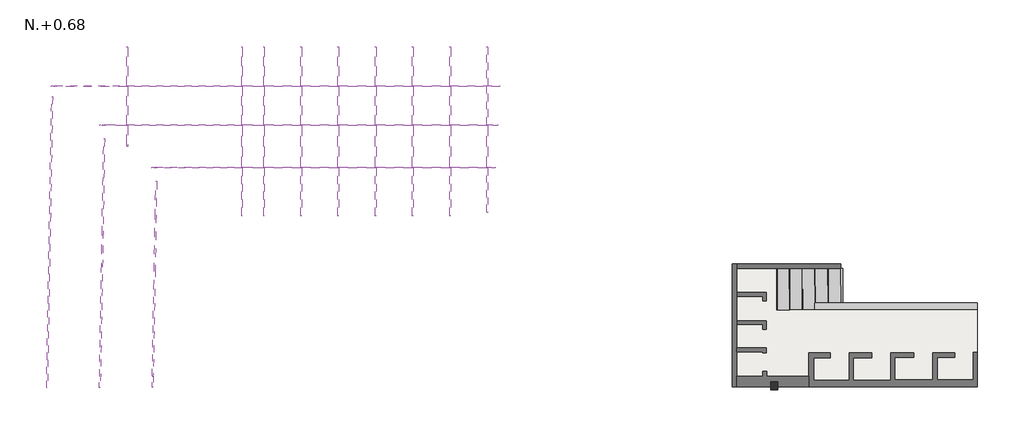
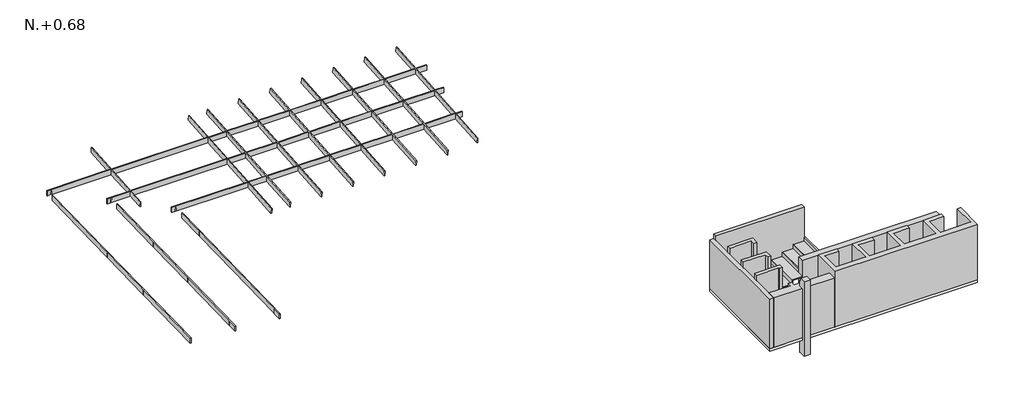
# One storey: 15 beams, 8 proxies, 1 column, 1 slab, 1 stair flight.
"""IFC4 building model written with IfcOpenShell, lengths in millimetres."""

from ifc_helpers import new_model, si_unit, frame, origin, place, context, project, spatial, polyline, outline, extrude, faceted_brep, transform, mapped, element, save
from components import stair_flight_a5c20a10

model = new_model("IFC4")

# Units and contexts
model_context = context("Model", 3, world=origin())
ifc_project = project(units=[si_unit("LENGTHUNIT", "METRE", prefix="MILLI")], contexts=[model_context])

# Site, building, storey
site = spatial("IfcSite", under=ifc_project)
building = spatial("IfcBuilding", under=site)
storey = spatial("IfcBuildingStorey", under=building, Name="N.+0.68", Elevation=-2330.0)

# Beams
placement = place(None, origin())
element("IfcBeam", 1, ObjectType="Concrete-Rectangular Beam : VGT-301(18X03)EN MADERA", at=placement, inside=storey, context=model_context, shape_type="Brep", body=[
    faceted_brep([(16563.4063436, 9794.5052207, 5850.0), (16563.4063436, 9764.5052207, 5850.0), (16563.4063436, 9764.5052207, 5650.0), (16563.4063436, 9794.5052207, 5650.0), (2103.4063436, 9794.5052207, 5850.0), (2103.4063436, 9794.5052207, 5650.0), (2103.4063436, 9764.5052207, 5650.0), (2103.4063436, 9764.5052207, 5850.0), (14976.1216022, 9794.5052207, 5850.0), (14976.1216022, 9764.5052207, 5850.0), (14976.1216022, 9764.5052207, 5654.8803314), (14946.1216022, 9764.5052207, 5654.8803314), (14946.1216022, 9764.5052207, 5850.0), (13775.9620953, 9764.5052207, 5850.0), (13775.9620953, 9764.5052207, 5654.8803314), (13745.9620953, 9764.5052207, 5654.8803314), (13745.9620953, 9764.5052207, 5850.0), (12576.1254691, 9764.5052207, 5850.0), (12576.1254691, 9764.5052207, 5654.8803314), (12546.1254691, 9764.5052207, 5654.8803314), (12546.1254691, 9764.5052207, 5850.0), (11376.0358993, 9764.5052207, 5850.0), (11376.0358993, 9764.5052207, 5654.8803314), (11346.0358993, 9764.5052207, 5654.8803314), (11346.0358993, 9764.5052207, 5850.0), (10176.0728013, 9764.5052207, 5850.0), (10176.0728013, 9764.5052207, 5654.8803314), (10146.0728013, 9764.5052207, 5654.8803314), (10146.0728013, 9764.5052207, 5850.0), (8976.1097033, 9764.5052207, 5850.0), (8976.1097033, 9764.5052207, 5654.8803314), (8946.1097033, 9764.5052207, 5654.8803314), (8946.1097033, 9764.5052207, 5850.0), (8266.1324595, 9764.5052207, 5850.0), (8266.1324595, 9764.5052207, 5654.8803314), (8236.1324595, 9764.5052207, 5654.8803314), (8236.1324595, 9764.5052207, 5850.0), (4567.5436235, 9764.5052207, 5850.0), (4567.5436235, 9764.5052207, 5663.6930278), (4537.5436235, 9764.5052207, 5663.6930278), (4537.5436235, 9764.5052207, 5850.0), (2228.1198364, 9764.5052207, 5650.0), (2239.5813547, 9764.5052207, 5831.9803367), (2287.1007594, 9764.5052207, 5828.987461), (2275.827739, 9764.5052207, 5650.0), (2238.7808243, 9794.5052207, 5650.0), (2250.2002201, 9794.5052207, 5831.3115374), (2202.6808154, 9794.5052207, 5834.3044131), (2191.0729217, 9794.5052207, 5650.0), (4537.5436235, 9794.5052207, 5850.0), (4537.5436235, 9794.5052207, 5665.93183), (4567.5436235, 9794.5052207, 5665.93183), (4567.5436235, 9794.5052207, 5850.0), (8236.1324595, 9794.5052207, 5850.0), (8236.1324595, 9794.5052207, 5657.3229592), (8266.1324595, 9794.5052207, 5657.3229592), (8266.1324595, 9794.5052207, 5850.0), (8946.1097033, 9794.5052207, 5850.0), (8946.1097033, 9794.5052207, 5657.3229592), (8976.1097033, 9794.5052207, 5657.3229592), (8976.1097033, 9794.5052207, 5850.0), (10146.0728013, 9794.5052207, 5850.0), (10146.0728013, 9794.5052207, 5657.3229592), (10176.0728013, 9794.5052207, 5657.3229592), (10176.0728013, 9794.5052207, 5850.0), (11346.0358993, 9794.5052207, 5850.0), (11346.0358993, 9794.5052207, 5657.3229592), (11376.0358993, 9794.5052207, 5657.3229592), (11376.0358993, 9794.5052207, 5850.0), (12546.1254691, 9794.5052207, 5850.0), (12546.1254691, 9794.5052207, 5657.3229592), (12576.1254691, 9794.5052207, 5657.3229592), (12576.1254691, 9794.5052207, 5850.0), (13745.9620953, 9794.5052207, 5850.0), (13745.9620953, 9794.5052207, 5657.3229592), (13775.9620953, 9794.5052207, 5657.3229592), (13775.9620953, 9794.5052207, 5850.0), (14946.1216022, 9794.5052207, 5850.0), (14946.1216022, 9794.5052207, 5657.3229592), (14976.1216022, 9794.5052207, 5657.3229592)], [[[0, 1, 2, 3]], [[4, 5, 6, 7]], [[1, 0, 8, 9]], [[2, 1, 9, 10, 11, 12, 13, 14, 15, 16, 17, 18, 19, 20, 21, 22, 23, 24, 25, 26, 27, 28, 29, 30, 31, 32, 33, 34, 35, 36, 37, 38, 39, 40, 7, 6, 41, 42, 43, 44]], [[3, 2, 44, 45]], [[0, 3, 45, 46, 47, 48, 5, 4, 49, 50, 51, 52, 53, 54, 55, 56, 57, 58, 59, 60, 61, 62, 63, 64, 65, 66, 67, 68, 69, 70, 71, 72, 73, 74, 75, 76, 77, 78, 79, 8]], [[35, 54, 53, 36]], [[54, 35, 34, 55]], [[55, 34, 33, 56]], [[31, 58, 57, 32]], [[58, 31, 30, 59]], [[59, 30, 29, 60]], [[27, 62, 61, 28]], [[62, 27, 26, 63]], [[63, 26, 25, 64]], [[23, 66, 65, 24]], [[66, 23, 22, 67]], [[67, 22, 21, 68]], [[19, 70, 69, 20]], [[70, 19, 18, 71]], [[71, 18, 17, 72]], [[15, 74, 73, 16]], [[74, 15, 14, 75]], [[75, 14, 13, 76]], [[11, 78, 77, 12]], [[78, 11, 10, 79]], [[79, 10, 9, 8]], [[50, 49, 40, 39]], [[51, 50, 39, 38]], [[52, 51, 38, 37]], [[36, 53, 52, 37]], [[56, 33, 32, 57]], [[60, 29, 28, 61]], [[64, 25, 24, 65]], [[68, 21, 20, 69]], [[72, 17, 16, 73]], [[76, 13, 12, 77]], [[4, 7, 40, 49]], [[42, 47, 46, 43]], [[43, 46, 45, 44]], [[47, 42, 41, 48]], [[6, 5, 48, 41]]]),
])
element("IfcBeam", 2, ObjectType="Concrete-Rectangular Beam : VGT-302(18X03)EN MADERA", at=placement, inside=storey, context=model_context, shape_type="Brep", body=[
    faceted_brep([(16489.0950259, 8534.266915, 5745.0), (16489.0950259, 8504.266915, 5745.0), (16489.0950259, 8504.266915, 5545.0), (16489.0950259, 8534.266915, 5545.0), (3668.7952342, 8534.266915, 5745.0), (3668.7952342, 8534.266915, 5545.0), (3668.7952342, 8504.266915, 5545.0), (3668.7952342, 8504.266915, 5745.0), (16174.4570687, 8534.266915, 5745.0), (16174.4570687, 8504.266915, 5745.0), (16174.4570687, 8504.266915, 5552.2705575), (16144.4570687, 8504.266915, 5552.2705575), (16144.4570687, 8504.266915, 5745.0), (14976.1216022, 8504.266915, 5745.0), (14976.1216022, 8504.266915, 5552.2705575), (14946.1216022, 8504.266915, 5552.2705575), (14946.1216022, 8504.266915, 5745.0), (13775.9620953, 8504.266915, 5745.0), (13775.9620953, 8504.266915, 5552.2705575), (13745.9620953, 8504.266915, 5552.2705575), (13745.9620953, 8504.266915, 5745.0), (12576.1254691, 8504.266915, 5745.0), (12576.1254691, 8504.266915, 5552.2705575), (12546.1254691, 8504.266915, 5552.2705575), (12546.1254691, 8504.266915, 5745.0), (11376.0358993, 8504.266915, 5745.0), (11376.0358993, 8504.266915, 5552.2705575), (11346.0358993, 8504.266915, 5552.2705575), (11346.0358993, 8504.266915, 5745.0), (10176.0728013, 8504.266915, 5745.0), (10176.0728013, 8504.266915, 5552.2705575), (10146.0728013, 8504.266915, 5552.2705575), (10146.0728013, 8504.266915, 5745.0), (8976.1097033, 8504.266915, 5745.0), (8976.1097033, 8504.266915, 5552.2705575), (8946.1097033, 8504.266915, 5552.2705575), (8946.1097033, 8504.266915, 5745.0), (8266.1324595, 8504.266915, 5745.0), (8266.1324595, 8504.266915, 5552.2705575), (8236.1324595, 8504.266915, 5552.2705575), (8236.1324595, 8504.266915, 5745.0), (4567.5436235, 8504.266915, 5745.0), (4567.5436235, 8504.266915, 5569.6455536), (4537.5436235, 8504.266915, 5569.6455536), (4537.5436235, 8504.266915, 5745.0), (3777.7714078, 8504.266915, 5545.0), (3789.6971255, 8504.266915, 5734.3506669), (3837.2165303, 8504.266915, 5731.3577912), (3825.4793104, 8504.266915, 5545.0), (3788.4323957, 8534.266915, 5545.0), (3800.315991, 8534.266915, 5733.6818676), (3752.7965862, 8534.266915, 5736.6747433), (3740.7244931, 8534.266915, 5545.0), (4537.5436235, 8534.266915, 5745.0), (4537.5436235, 8534.266915, 5571.8843557), (4567.5436235, 8534.266915, 5571.8843557), (4567.5436235, 8534.266915, 5745.0), (8236.1324595, 8534.266915, 5745.0), (8236.1324595, 8534.266915, 5554.7131854), (8266.1324595, 8534.266915, 5554.7131854), (8266.1324595, 8534.266915, 5745.0), (8946.1097033, 8534.266915, 5745.0), (8946.1097033, 8534.266915, 5554.7131854), (8976.1097033, 8534.266915, 5554.7131854), (8976.1097033, 8534.266915, 5745.0), (10146.0728013, 8534.266915, 5745.0), (10146.0728013, 8534.266915, 5554.7131854), (10176.0728013, 8534.266915, 5554.7131854), (10176.0728013, 8534.266915, 5745.0), (11346.0358993, 8534.266915, 5745.0), (11346.0358993, 8534.266915, 5554.7131854), (11376.0358993, 8534.266915, 5554.7131854), (11376.0358993, 8534.266915, 5745.0), (12546.1254691, 8534.266915, 5745.0), (12546.1254691, 8534.266915, 5554.7131854), (12576.1254691, 8534.266915, 5554.7131854), (12576.1254691, 8534.266915, 5745.0), (13745.9620953, 8534.266915, 5745.0), (13745.9620953, 8534.266915, 5554.7131854), (13775.9620953, 8534.266915, 5554.7131854), (13775.9620953, 8534.266915, 5745.0), (14946.1216022, 8534.266915, 5745.0), (14946.1216022, 8534.266915, 5554.7131854), (14976.1216022, 8534.266915, 5554.7131854), (14976.1216022, 8534.266915, 5745.0), (16144.4570687, 8534.266915, 5745.0), (16144.4570687, 8534.266915, 5554.7131854), (16174.4570687, 8534.266915, 5554.7131854)], [[[0, 1, 2, 3]], [[4, 5, 6, 7]], [[1, 0, 8, 9]], [[2, 1, 9, 10, 11, 12, 13, 14, 15, 16, 17, 18, 19, 20, 21, 22, 23, 24, 25, 26, 27, 28, 29, 30, 31, 32, 33, 34, 35, 36, 37, 38, 39, 40, 41, 42, 43, 44, 7, 6, 45, 46, 47, 48]], [[3, 2, 48, 49]], [[0, 3, 49, 50, 51, 52, 5, 4, 53, 54, 55, 56, 57, 58, 59, 60, 61, 62, 63, 64, 65, 66, 67, 68, 69, 70, 71, 72, 73, 74, 75, 76, 77, 78, 79, 80, 81, 82, 83, 84, 85, 86, 87, 8]], [[44, 43, 54, 53]], [[54, 43, 42, 55]], [[42, 41, 56, 55]], [[40, 39, 58, 57]], [[58, 39, 38, 59]], [[38, 37, 60, 59]], [[36, 35, 62, 61]], [[62, 35, 34, 63]], [[34, 33, 64, 63]], [[32, 31, 66, 65]], [[66, 31, 30, 67]], [[30, 29, 68, 67]], [[28, 27, 70, 69]], [[70, 27, 26, 71]], [[26, 25, 72, 71]], [[24, 23, 74, 73]], [[74, 23, 22, 75]], [[22, 21, 76, 75]], [[20, 19, 78, 77]], [[78, 19, 18, 79]], [[18, 17, 80, 79]], [[16, 15, 82, 81]], [[82, 15, 14, 83]], [[14, 13, 84, 83]], [[12, 11, 86, 85]], [[86, 11, 10, 87]], [[10, 9, 8, 87]], [[4, 7, 44, 53]], [[56, 41, 40, 57]], [[60, 37, 36, 61]], [[64, 33, 32, 65]], [[68, 29, 28, 69]], [[72, 25, 24, 73]], [[76, 21, 20, 77]], [[80, 17, 16, 81]], [[84, 13, 12, 85]], [[46, 51, 50, 47]], [[47, 50, 49, 48]], [[51, 46, 45, 52]], [[6, 5, 52, 45]]]),
])
element("IfcBeam", 3, ObjectType="Concrete-Rectangular Beam : VGT-303(18X03)EN MADERA", at=placement, inside=storey, context=model_context, shape_type="Brep", body=[
    faceted_brep([(16408.6269757, 7169.6171913, 5635.0), (16408.6269757, 7139.6171913, 5635.0), (16408.6269757, 7139.6171913, 5435.0), (16408.6269757, 7169.6171913, 5435.0), (5347.3389262, 7169.6171913, 5635.0), (5347.3389262, 7169.6171913, 5435.0), (5347.3389262, 7139.6171913, 5435.0), (5347.3389262, 7139.6171913, 5635.0), (16174.4570687, 7169.6171913, 5635.0), (16174.4570687, 7139.6171913, 5635.0), (16174.4570687, 7139.6171913, 5441.1595089), (16144.4570687, 7139.6171913, 5441.1595089), (16144.4570687, 7139.6171913, 5635.0), (14976.1216022, 7139.6171913, 5635.0), (14976.1216022, 7139.6171913, 5441.1595089), (14946.1216022, 7139.6171913, 5441.1595089), (14946.1216022, 7139.6171913, 5635.0), (13775.9620953, 7139.6171913, 5635.0), (13775.9620953, 7139.6171913, 5441.1595089), (13745.9620953, 7139.6171913, 5441.1595089), (13745.9620953, 7139.6171913, 5635.0), (12576.1254691, 7139.6171913, 5635.0), (12576.1254691, 7139.6171913, 5441.1595089), (12546.1254691, 7139.6171913, 5441.1595089), (12546.1254691, 7139.6171913, 5635.0), (11376.0358993, 7139.6171913, 5635.0), (11376.0358993, 7139.6171913, 5441.1595089), (11346.0358993, 7139.6171913, 5441.1595089), (11346.0358993, 7139.6171913, 5635.0), (10176.0728013, 7139.6171913, 5635.0), (10176.0728013, 7139.6171913, 5441.1595089), (10146.0728013, 7139.6171913, 5441.1595089), (10146.0728013, 7139.6171913, 5635.0), (8976.1097033, 7139.6171913, 5635.0), (8976.1097033, 7139.6171913, 5441.1595089), (8946.1097033, 7139.6171913, 5441.1595089), (8946.1097033, 7139.6171913, 5635.0), (8266.1324595, 7139.6171913, 5635.0), (8266.1324595, 7139.6171913, 5441.1595089), (8236.1324595, 7139.6171913, 5441.1595089), (8236.1324595, 7139.6171913, 5635.0), (5456.0454315, 7139.6171913, 5435.0), (5468.2408175, 7139.6171913, 5628.6323267), (5515.7602222, 7139.6171913, 5625.639451), (5503.7533341, 7139.6171913, 5435.0), (5466.7064194, 7169.6171913, 5435.0), (5478.8596829, 7169.6171913, 5627.9635274), (5431.3402782, 7169.6171913, 5630.9564031), (5418.9985168, 7169.6171913, 5435.0), (8236.1324595, 7169.6171913, 5635.0), (8236.1324595, 7169.6171913, 5443.6021368), (8266.1324595, 7169.6171913, 5443.6021368), (8266.1324595, 7169.6171913, 5635.0), (8946.1097033, 7169.6171913, 5635.0), (8946.1097033, 7169.6171913, 5443.6021368), (8976.1097033, 7169.6171913, 5443.6021368), (8976.1097033, 7169.6171913, 5635.0), (10146.0728013, 7169.6171913, 5635.0), (10146.0728013, 7169.6171913, 5443.6021368), (10176.0728013, 7169.6171913, 5443.6021368), (10176.0728013, 7169.6171913, 5635.0), (11346.0358993, 7169.6171913, 5635.0), (11346.0358993, 7169.6171913, 5443.6021368), (11376.0358993, 7169.6171913, 5443.6021368), (11376.0358993, 7169.6171913, 5635.0), (12546.1254691, 7169.6171913, 5635.0), (12546.1254691, 7169.6171913, 5443.6021368), (12576.1254691, 7169.6171913, 5443.6021368), (12576.1254691, 7169.6171913, 5635.0), (13745.9620953, 7169.6171913, 5635.0), (13745.9620953, 7169.6171913, 5443.6021368), (13775.9620953, 7169.6171913, 5443.6021368), (13775.9620953, 7169.6171913, 5635.0), (14946.1216022, 7169.6171913, 5635.0), (14946.1216022, 7169.6171913, 5443.6021368), (14976.1216022, 7169.6171913, 5443.6021368), (14976.1216022, 7169.6171913, 5635.0), (16144.4570687, 7169.6171913, 5635.0), (16144.4570687, 7169.6171913, 5443.6021368), (16174.4570687, 7169.6171913, 5443.6021368)], [[[0, 1, 2, 3]], [[4, 5, 6, 7]], [[1, 0, 8, 9]], [[2, 1, 9, 10, 11, 12, 13, 14, 15, 16, 17, 18, 19, 20, 21, 22, 23, 24, 25, 26, 27, 28, 29, 30, 31, 32, 33, 34, 35, 36, 37, 38, 39, 40, 7, 6, 41, 42, 43, 44]], [[3, 2, 44, 45]], [[0, 3, 45, 46, 47, 48, 5, 4, 49, 50, 51, 52, 53, 54, 55, 56, 57, 58, 59, 60, 61, 62, 63, 64, 65, 66, 67, 68, 69, 70, 71, 72, 73, 74, 75, 76, 77, 78, 79, 8]], [[39, 50, 49, 40]], [[50, 39, 38, 51]], [[51, 38, 37, 52]], [[4, 7, 40, 49]], [[35, 54, 53, 36]], [[54, 35, 34, 55]], [[55, 34, 33, 56]], [[52, 37, 36, 53]], [[31, 58, 57, 32]], [[58, 31, 30, 59]], [[59, 30, 29, 60]], [[56, 33, 32, 57]], [[27, 62, 61, 28]], [[62, 27, 26, 63]], [[63, 26, 25, 64]], [[60, 29, 28, 61]], [[23, 66, 65, 24]], [[66, 23, 22, 67]], [[67, 22, 21, 68]], [[64, 25, 24, 65]], [[19, 70, 69, 20]], [[70, 19, 18, 71]], [[71, 18, 17, 72]], [[68, 21, 20, 69]], [[15, 74, 73, 16]], [[74, 15, 14, 75]], [[75, 14, 13, 76]], [[72, 17, 16, 73]], [[11, 78, 77, 12]], [[78, 11, 10, 79]], [[79, 10, 9, 8]], [[76, 13, 12, 77]], [[42, 47, 46, 43]], [[43, 46, 45, 44]], [[47, 42, 41, 48]], [[6, 5, 48, 41]]]),
])
element("IfcBeam", 4, ObjectType="Concrete-Rectangular Beam : VGT-307(18X03)EN MADERA", at=placement, inside=storey, context=model_context, shape_type="Brep", body=[
    faceted_brep([(1981.2074283, 46.5985462, 5850.0), (1951.2119974, 47.1221184, 5850.0), (1951.2119974, 47.1221184, 5650.0), (1981.2074283, 46.5985462, 5650.0), (2145.2600488, 9445.1668807, 5850.0), (2145.2600488, 9445.1668807, 5650.0), (2115.264618, 9445.6904529, 5650.0), (2115.264618, 9445.6904529, 5850.0), (2049.6694149, 5687.7437853, 5650.0), (2049.6805565, 5688.3820876, 5843.9407028), (2049.1566661, 5658.3684276, 5843.9736986), (2049.1455226, 5657.7300167, 5650.0), (2007.026698, 3244.7441735, 5650.0), (2007.026698, 3244.7441735, 5846.6271358), (2006.5030461, 3214.7441735, 5846.6601165), (2006.5030461, 3214.7441735, 5650.0), (2036.5076159, 3214.7441735, 5650.0), (2036.5076159, 3214.7441735, 5844.7703633), (2037.0312679, 3244.7441735, 5844.7373826), (2037.0312679, 3244.7441735, 5650.0), (2079.1227241, 5656.1620848, 5650.0), (2079.1337591, 5656.7942819, 5842.0856759), (2079.6576495, 5686.8079419, 5842.0526802), (2079.6466164, 5686.1758535, 5650.0)], [[[0, 1, 2, 3]], [[4, 5, 6, 7]], [[1, 0, 4, 7]], [[2, 1, 7, 6, 8, 9, 10, 11, 12, 13, 14, 15]], [[3, 2, 15, 16]], [[0, 3, 16, 17, 18, 19, 20, 21, 22, 23, 5, 4]], [[13, 18, 17, 14]], [[15, 14, 17, 16]], [[13, 12, 19, 18]], [[9, 22, 21, 10]], [[10, 21, 20, 11]], [[22, 9, 8, 23]], [[19, 12, 11, 20]], [[6, 5, 23, 8]]]),
])
element("IfcBeam", 5, ObjectType="Concrete-Rectangular Beam : VGT-308(18X03)EN MADERA", at=placement, inside=storey, context=model_context, shape_type="Brep", body=[
    faceted_brep([(3683.2796508, 48.3078819, 5745.0), (3653.2842199, 48.8314541, 5745.0), (3653.2842199, 48.8314541, 5545.0), (3683.2796508, 48.3078819, 5545.0), (3823.5097365, 8082.0841125, 5745.0), (3823.5097365, 8082.0841125, 5545.0), (3793.5143056, 8082.6076847, 5545.0), (3793.5143056, 8082.6076847, 5745.0), (3750.1532687, 5598.4555405, 5545.0), (3750.1642896, 5599.0869306, 5736.840531), (3749.6403992, 5569.0732706, 5736.8735268), (3749.6293764, 5568.4417718, 5545.0), (3709.0690839, 3244.7441735, 5545.0), (3709.0690839, 3244.7441735, 5739.4287967), (3708.545432, 3214.7441735, 5739.4617774), (3708.545432, 3214.7441735, 5545.0), (3659.9406378, 430.1773784, 5545.0), (3659.9406378, 430.1773784, 5742.5230133), (3659.4169858, 400.1773784, 5742.555994), (3659.4169858, 400.1773784, 5545.0), (3689.4215557, 400.1773784, 5545.0), (3689.4215557, 400.1773784, 5740.6662408), (3689.9452076, 430.1773784, 5740.6332601), (3689.9452076, 430.1773784, 5545.0), (3738.5500018, 3214.7441735, 5545.0), (3738.5500018, 3214.7441735, 5737.5720242), (3739.0736538, 3244.7441735, 5737.5390435), (3739.0736538, 3244.7441735, 5545.0), (3779.6065779, 5566.87384, 5545.0), (3779.6174923, 5567.4991249, 5734.9855041), (3780.1413826, 5597.5127849, 5734.9525084), (3780.1304701, 5596.8876086, 5545.0)], [[[0, 1, 2, 3]], [[4, 5, 6, 7]], [[1, 0, 4, 7]], [[2, 1, 7, 6, 8, 9, 10, 11, 12, 13, 14, 15, 16, 17, 18, 19]], [[3, 2, 19, 20]], [[0, 3, 20, 21, 22, 23, 24, 25, 26, 27, 28, 29, 30, 31, 5, 4]], [[9, 30, 29, 10]], [[10, 29, 28, 11]], [[30, 9, 8, 31]], [[17, 22, 21, 18]], [[19, 18, 21, 20]], [[17, 16, 23, 22]], [[13, 26, 25, 14]], [[14, 25, 24, 15]], [[26, 13, 12, 27]], [[6, 5, 31, 8]], [[23, 16, 15, 24]], [[11, 28, 27, 12]]]),
])
element("IfcBeam", 6, ObjectType="Concrete-Rectangular Beam : VGT-309(18X03)EN MADERA", at=placement, inside=storey, context=model_context, shape_type="Brep", body=[
    faceted_brep([(5385.5346251, 60.4870666, 5635.0), (5355.5391943, 61.0106388, 5635.0), (5355.5391943, 61.0106388, 5435.0), (5385.5346251, 60.4870666, 5435.0), (5501.68039, 6714.4734779, 5635.0), (5501.68039, 6714.4734779, 5435.0), (5471.6849591, 6714.9970501, 5435.0), (5471.6849591, 6714.9970501, 5635.0), (5361.9830237, 430.1773784, 5635.0), (5367.1380394, 430.1773784, 5635.0), (5367.1380394, 400.1773784, 5635.0), (5361.4593717, 400.1773784, 5635.0), (5361.4593717, 400.1773784, 5435.0), (5391.4639416, 400.1773784, 5435.0), (5391.4639416, 400.1773784, 5633.4679017), (5391.9875935, 430.1773784, 5633.4349209), (5391.9875935, 430.1773784, 5435.0), (5440.5923877, 3214.7441735, 5435.0), (5440.5923877, 3214.7441735, 5630.373685), (5441.1160397, 3244.7441735, 5630.3407043), (5441.1160397, 3244.7441735, 5435.0), (5480.0901444, 5477.569139, 5435.0), (5480.1012254, 5478.2039679, 5627.8853323), (5480.6251158, 5508.2176279, 5627.8523366), (5480.6140367, 5507.5829076, 5435.0), (5450.6480228, 5509.7917736, 5629.7403592), (5450.1241324, 5479.7781136, 5629.773355), (5450.1129429, 5479.1370708, 5435.0), (5450.6368352, 5509.1508395, 5435.0), (5361.9830237, 430.1773784, 5435.0), (5411.1114698, 3244.7441735, 5632.2304575), (5410.5878179, 3214.7441735, 5632.2634383), (5410.5878179, 3214.7441735, 5435.0), (5411.1114698, 3244.7441735, 5435.0)], [[[0, 1, 2, 3]], [[4, 5, 6, 7]], [[1, 0, 4, 7, 8, 9, 10, 11]], [[2, 1, 11, 12]], [[3, 2, 12, 13]], [[0, 3, 13, 14, 15, 16, 17, 18, 19, 20, 21, 22, 23, 24, 5, 4]], [[25, 23, 22, 26]], [[27, 26, 22, 21]], [[25, 28, 24, 23]], [[9, 15, 14, 10]], [[12, 11, 10, 14, 13]], [[8, 29, 16, 15, 9]], [[30, 19, 18, 31]], [[31, 18, 17, 32]], [[19, 30, 33, 20]], [[6, 5, 24, 28]], [[16, 29, 32, 17]], [[27, 21, 20, 33]], [[7, 6, 28, 25, 26, 27, 33, 30, 31, 32, 29, 8]]]),
])
element("IfcBeam", 7, ObjectType="Concrete-Rectangular Beam : VGT-311(18X03)EN MADERA", at=placement, inside=storey, context=model_context, shape_type="Brep", body=[
    faceted_brep([(4567.5436235, 7831.5630495, 5720.0), (4537.5436235, 7831.5630495, 5720.0), (4537.5436235, 7846.4470092, 5520.5545996), (4567.5436235, 7846.4470092, 5520.5545996), (4567.5436235, 11046.040673, 5959.8859804), (4567.5436235, 11060.9246327, 5760.44058), (4537.5436235, 11060.9246327, 5760.44058), (4537.5436235, 11046.040673, 5959.8859804), (4537.5436235, 9794.5052207, 5665.93183), (4537.5436235, 9764.5052207, 5663.6930278), (4537.5436235, 8534.266915, 5571.8843557), (4537.5436235, 8504.266915, 5569.6455536), (4537.5436235, 7926.7073198, 5526.5441648), (4537.5436235, 7934.9036158, 5687.2496645), (4537.5436235, 7896.2705181, 5687.2496645), (4537.5436235, 7887.9266184, 5523.6500875), (4567.5436235, 7863.5402803, 5521.8302147), (4567.5436235, 7871.8806306, 5685.3601991), (4567.5436235, 7910.5137284, 5685.3601991), (4567.5436235, 7902.3209817, 5524.7242919), (4567.5436235, 8504.266915, 5569.6455536), (4567.5436235, 8534.266915, 5571.8843557), (4567.5436235, 9764.5052207, 5663.6930278), (4567.5436235, 9794.5052207, 5665.93183)], [[[0, 1, 2, 3]], [[4, 5, 6, 7]], [[1, 0, 4, 7]], [[2, 1, 7, 6, 8, 9, 10, 11, 12, 13, 14, 15]], [[3, 2, 15, 16]], [[0, 3, 16, 17, 18, 19, 20, 21, 22, 23, 5, 4]], [[17, 14, 13, 18]], [[18, 13, 12, 19]], [[14, 17, 16, 15]], [[6, 5, 23, 22, 21, 20, 19, 12, 11, 10, 9, 8]]]),
])
element("IfcBeam", 8, ObjectType="Concrete-Rectangular Beam : VGT-312(18X03)EN MADERA", at=placement, inside=storey, context=model_context, shape_type="Brep", body=[
    faceted_brep([(8266.1324595, 5592.5846234, 5515.8605214), (8236.1324595, 5592.5846234, 5515.8605214), (8236.1324595, 5608.8150992, 5316.5201801), (8266.1324595, 5608.8150992, 5316.5201801), (8266.1324595, 11046.040673, 5959.8859804), (8266.1324595, 11062.2711488, 5760.5456391), (8236.1324595, 11062.2711488, 5760.5456391), (8236.1324595, 11046.040673, 5959.8859804), (8236.1324595, 9794.5052207, 5657.3229592), (8236.1324595, 9764.5052207, 5654.8803314), (8236.1324595, 8534.266915, 5554.7131854), (8236.1324595, 8504.266915, 5552.2705575), (8236.1324595, 7169.6171913, 5443.6021368), (8236.1324595, 7139.6171913, 5441.1595089), (8266.1324595, 9794.5052207, 5657.3229592), (8266.1324595, 9764.5052207, 5654.8803314), (8266.1324595, 8534.266915, 5554.7131854), (8266.1324595, 8504.266915, 5552.2705575), (8266.1324595, 7169.6171913, 5443.6021368), (8266.1324595, 7139.6171913, 5441.1595089)], [[[0, 1, 2, 3]], [[4, 5, 6, 7]], [[1, 0, 4, 7]], [[2, 1, 7, 6, 8, 9, 10, 11, 12, 13]], [[3, 2, 13, 12, 11, 10, 9, 8, 6, 5, 14, 15, 16, 17, 18, 19]], [[0, 3, 19, 18, 17, 16, 15, 14, 5, 4]]]),
])
element("IfcBeam", 9, ObjectType="Concrete-Rectangular Beam : VGT-313(18X03)EN MADERA", at=placement, inside=storey, context=model_context, shape_type="Brep", body=[
    faceted_brep([(8976.1097033, 5592.5846234, 5515.8605214), (8946.1097033, 5592.5846234, 5515.8605214), (8946.1097033, 5608.8150992, 5316.5201801), (8976.1097033, 5608.8150992, 5316.5201801), (8976.1097033, 11045.8508632, 5959.8705259), (8976.1097033, 11062.0813391, 5760.5301847), (8946.1097033, 11062.0813391, 5760.5301847), (8946.1097033, 11045.8508632, 5959.8705259), (8946.1097033, 9794.5052207, 5657.3229592), (8946.1097033, 9764.5052207, 5654.8803314), (8946.1097033, 8534.266915, 5554.7131854), (8946.1097033, 8504.266915, 5552.2705575), (8946.1097033, 7169.6171913, 5443.6021368), (8946.1097033, 7139.6171913, 5441.1595089), (8976.1097033, 9794.5052207, 5657.3229592), (8976.1097033, 9764.5052207, 5654.8803314), (8976.1097033, 8534.266915, 5554.7131854), (8976.1097033, 8504.266915, 5552.2705575), (8976.1097033, 7169.6171913, 5443.6021368), (8976.1097033, 7139.6171913, 5441.1595089)], [[[0, 1, 2, 3]], [[4, 5, 6, 7]], [[1, 0, 4, 7]], [[2, 1, 7, 6, 8, 9, 10, 11, 12, 13]], [[3, 2, 13, 12, 11, 10, 9, 8, 6, 5, 14, 15, 16, 17, 18, 19]], [[0, 3, 19, 18, 17, 16, 15, 14, 5, 4]]]),
])
element("IfcBeam", 10, ObjectType="Concrete-Rectangular Beam : VGT-313(18X03)EN MADERA", at=placement, inside=storey, context=model_context, shape_type="Brep", body=[
    faceted_brep([(10176.0728013, 5592.5846234, 5515.8605214), (10146.0728013, 5592.5846234, 5515.8605214), (10146.0728013, 5608.8150992, 5316.5201801), (10176.0728013, 5608.8150992, 5316.5201801), (10176.0728013, 11045.5300581, 5959.8444057), (10176.0728013, 11061.7605339, 5760.5040644), (10146.0728013, 11061.7605339, 5760.5040644), (10146.0728013, 11045.5300581, 5959.8444057), (10146.0728013, 9794.5052207, 5657.3229592), (10146.0728013, 9764.5052207, 5654.8803314), (10146.0728013, 8534.266915, 5554.7131854), (10146.0728013, 8504.266915, 5552.2705575), (10146.0728013, 7169.6171913, 5443.6021368), (10146.0728013, 7139.6171913, 5441.1595089), (10176.0728013, 9794.5052207, 5657.3229592), (10176.0728013, 9764.5052207, 5654.8803314), (10176.0728013, 8534.266915, 5554.7131854), (10176.0728013, 8504.266915, 5552.2705575), (10176.0728013, 7169.6171913, 5443.6021368), (10176.0728013, 7139.6171913, 5441.1595089)], [[[0, 1, 2, 3]], [[4, 5, 6, 7]], [[1, 0, 4, 7]], [[2, 1, 7, 6, 8, 9, 10, 11, 12, 13]], [[3, 2, 13, 12, 11, 10, 9, 8, 6, 5, 14, 15, 16, 17, 18, 19]], [[0, 3, 19, 18, 17, 16, 15, 14, 5, 4]]]),
])
element("IfcBeam", 11, ObjectType="Concrete-Rectangular Beam : VGT-313(18X03)EN MADERA", at=placement, inside=storey, context=model_context, shape_type="Brep", body=[
    faceted_brep([(11376.0358993, 5592.5846234, 5515.8605214), (11346.0358993, 5592.5846234, 5515.8605214), (11346.0358993, 5608.8150992, 5316.5201801), (11376.0358993, 5608.8150992, 5316.5201801), (11376.0358993, 11045.209253, 5959.8182854), (11376.0358993, 11061.4397288, 5760.4779442), (11346.0358993, 11061.4397288, 5760.4779442), (11346.0358993, 11045.209253, 5959.8182854), (11346.0358993, 9794.5052207, 5657.3229592), (11346.0358993, 9764.5052207, 5654.8803314), (11346.0358993, 8534.266915, 5554.7131854), (11346.0358993, 8504.266915, 5552.2705575), (11346.0358993, 7169.6171913, 5443.6021368), (11346.0358993, 7139.6171913, 5441.1595089), (11376.0358993, 9794.5052207, 5657.3229592), (11376.0358993, 9764.5052207, 5654.8803314), (11376.0358993, 8534.266915, 5554.7131854), (11376.0358993, 8504.266915, 5552.2705575), (11376.0358993, 7169.6171913, 5443.6021368), (11376.0358993, 7139.6171913, 5441.1595089)], [[[0, 1, 2, 3]], [[4, 5, 6, 7]], [[1, 0, 4, 7]], [[2, 1, 7, 6, 8, 9, 10, 11, 12, 13]], [[3, 2, 13, 12, 11, 10, 9, 8, 6, 5, 14, 15, 16, 17, 18, 19]], [[0, 3, 19, 18, 17, 16, 15, 14, 5, 4]]]),
])
element("IfcBeam", 12, ObjectType="Concrete-Rectangular Beam : VGT-313(18X03)EN MADERA", at=placement, inside=storey, context=model_context, shape_type="Brep", body=[
    faceted_brep([(12576.1254691, 5592.5846234, 5515.8605214), (12546.1254691, 5592.5846234, 5515.8605214), (12546.1254691, 5608.8150992, 5316.5201801), (12576.1254691, 5608.8150992, 5316.5201801), (12576.1254691, 11044.8884478, 5959.7921652), (12576.1254691, 11061.1189236, 5760.4518239), (12546.1254691, 11061.1189236, 5760.4518239), (12546.1254691, 11044.8884478, 5959.7921652), (12546.1254691, 9794.5052207, 5657.3229592), (12546.1254691, 9764.5052207, 5654.8803314), (12546.1254691, 8534.266915, 5554.7131854), (12546.1254691, 8504.266915, 5552.2705575), (12546.1254691, 7169.6171913, 5443.6021368), (12546.1254691, 7139.6171913, 5441.1595089), (12576.1254691, 9794.5052207, 5657.3229592), (12576.1254691, 9764.5052207, 5654.8803314), (12576.1254691, 8534.266915, 5554.7131854), (12576.1254691, 8504.266915, 5552.2705575), (12576.1254691, 7169.6171913, 5443.6021368), (12576.1254691, 7139.6171913, 5441.1595089)], [[[0, 1, 2, 3]], [[4, 5, 6, 7]], [[1, 0, 4, 7]], [[2, 1, 7, 6, 8, 9, 10, 11, 12, 13]], [[3, 2, 13, 12, 11, 10, 9, 8, 6, 5, 14, 15, 16, 17, 18, 19]], [[0, 3, 19, 18, 17, 16, 15, 14, 5, 4]]]),
])
element("IfcBeam", 13, ObjectType="Concrete-Rectangular Beam : VGT-313(18X03)EN MADERA", at=placement, inside=storey, context=model_context, shape_type="Brep", body=[
    faceted_brep([(13775.9620953, 5592.5846234, 5515.8605214), (13745.9620953, 5592.5846234, 5515.8605214), (13745.9620953, 5608.8150992, 5316.5201801), (13775.9620953, 5608.8150992, 5316.5201801), (13775.9620953, 11044.5676427, 5959.7660449), (13775.9620953, 11060.7981185, 5760.4257037), (13745.9620953, 11060.7981185, 5760.4257037), (13745.9620953, 11044.5676427, 5959.7660449), (13745.9620953, 9794.5052207, 5657.3229592), (13745.9620953, 9764.5052207, 5654.8803314), (13745.9620953, 8534.266915, 5554.7131854), (13745.9620953, 8504.266915, 5552.2705575), (13745.9620953, 7169.6171913, 5443.6021368), (13745.9620953, 7139.6171913, 5441.1595089), (13775.9620953, 9794.5052207, 5657.3229592), (13775.9620953, 9764.5052207, 5654.8803314), (13775.9620953, 8534.266915, 5554.7131854), (13775.9620953, 8504.266915, 5552.2705575), (13775.9620953, 7169.6171913, 5443.6021368), (13775.9620953, 7139.6171913, 5441.1595089)], [[[0, 1, 2, 3]], [[4, 5, 6, 7]], [[1, 0, 4, 7]], [[2, 1, 7, 6, 8, 9, 10, 11, 12, 13]], [[3, 2, 13, 12, 11, 10, 9, 8, 6, 5, 14, 15, 16, 17, 18, 19]], [[0, 3, 19, 18, 17, 16, 15, 14, 5, 4]]]),
])
element("IfcBeam", 14, ObjectType="Concrete-Rectangular Beam : VGT-313(18X03)EN MADERA", at=placement, inside=storey, context=model_context, shape_type="Brep", body=[
    faceted_brep([(14976.1216022, 5592.5846234, 5515.8605214), (14946.1216022, 5592.5846234, 5515.8605214), (14946.1216022, 5608.8150992, 5316.5201801), (14976.1216022, 5608.8150992, 5316.5201801), (14976.1216022, 11044.2468375, 5959.7399247), (14976.1216022, 11060.4773133, 5760.3995834), (14946.1216022, 11060.4773133, 5760.3995834), (14946.1216022, 11044.2468375, 5959.7399247), (14946.1216022, 9794.5052207, 5657.3229592), (14946.1216022, 9764.5052207, 5654.8803314), (14946.1216022, 8534.266915, 5554.7131854), (14946.1216022, 8504.266915, 5552.2705575), (14946.1216022, 7169.6171913, 5443.6021368), (14946.1216022, 7139.6171913, 5441.1595089), (14976.1216022, 9794.5052207, 5657.3229592), (14976.1216022, 9764.5052207, 5654.8803314), (14976.1216022, 8534.266915, 5554.7131854), (14976.1216022, 8504.266915, 5552.2705575), (14976.1216022, 7169.6171913, 5443.6021368), (14976.1216022, 7139.6171913, 5441.1595089)], [[[0, 1, 2, 3]], [[4, 5, 6, 7]], [[1, 0, 4, 7]], [[2, 1, 7, 6, 8, 9, 10, 11, 12, 13]], [[3, 2, 13, 12, 11, 10, 9, 8, 6, 5, 14, 15, 16, 17, 18, 19]], [[0, 3, 19, 18, 17, 16, 15, 14, 5, 4]]]),
])
element("IfcBeam", 15, ObjectType="Concrete-Rectangular Beam : VGT-314(18X03)EN MADERA", at=placement, inside=storey, context=model_context, shape_type="Brep", body=[
    faceted_brep([(16174.4570687, 5701.6048865, 5524.7370525), (16144.4570687, 5701.6048865, 5524.7370525), (16144.4570687, 5717.8353624, 5325.3967112), (16174.4570687, 5717.8353624, 5325.3967112), (16174.4570687, 11043.9260324, 5959.7138044), (16174.4570687, 11060.1565082, 5760.3734631), (16144.4570687, 11060.1565082, 5760.3734631), (16144.4570687, 11043.9260324, 5959.7138044), (16144.4570687, 8534.266915, 5554.7131854), (16144.4570687, 8504.266915, 5552.2705575), (16144.4570687, 7169.6171913, 5443.6021368), (16144.4570687, 7139.6171913, 5441.1595089), (16174.4570687, 8534.266915, 5554.7131854), (16174.4570687, 8504.266915, 5552.2705575), (16174.4570687, 7169.6171913, 5443.6021368), (16174.4570687, 7139.6171913, 5441.1595089)], [[[0, 1, 2, 3]], [[4, 5, 6, 7]], [[1, 0, 4, 7]], [[2, 1, 7, 6, 8, 9, 10, 11]], [[3, 2, 11, 10, 9, 8, 6, 5, 12, 13, 14, 15]], [[0, 3, 15, 14, 13, 12, 5, 4]]]),
])

# Proxies
element("IfcBuildingElementProxy", 16, Name="Masa 10 : Masa 10", ObjectType="Masa 10 : Masa 10", at=placement, inside=storey, context=model_context, shape_type="SweptSolid", body=[
    extrude(outline(polyline([(24199.0160317, 4053.6258883), (27559.0160317, 4053.6258883), (27559.0160317, 3906.5774531), (24199.0160317, 3906.5774531), (24199.0160317, 4053.6258883)])), frame((0.0, 0.0, -2330.0), z_axis=(0.0, 0.0, 1.0), x_axis=(1.0, 0.0, 0.0)), (0.0, 0.0, 1.0), 2173.7953768),
])
element("IfcBuildingElementProxy", 17, Name="Masa 3 : Masa 3", ObjectType="Masa 3 : Masa 3", at=placement, inside=storey, context=model_context, shape_type="SweptSolid", body=[
    extrude(outline(polyline([(24199.0160317, 4045.5784581), (24199.0160317, 84.8504741), (24049.5548544, 84.8504741), (24049.5548544, 4045.5784581), (24199.0160317, 4045.5784581)])), frame((0.0, 0.0, -2330.0), z_axis=(0.0, 0.0, 1.0), x_axis=(1.0, 0.0, 0.0)), (0.0, 0.0, 1.0), 1990.716812),
])
element("IfcBuildingElementProxy", 18, Name="Masa 4 : Masa 4", ObjectType="Masa 4 : Masa 4", at=placement, inside=storey, context=model_context, shape_type="SweptSolid", body=[
    extrude(outline(polyline([(25152.2786268, 3124.7916068), (25152.2786268, 2847.6488366), (25033.2496305, 2847.6488366), (25033.2496305, 2997.7158654), (24199.0160317, 2997.7158654), (24199.0160317, 3124.7916068), (25152.2786268, 3124.7916068)])), frame((0.0, 0.0, -2330.0), z_axis=(0.0, 0.0, 1.0), x_axis=(1.0, 0.0, 0.0)), (0.0, 0.0, 1.0), 2230.0),
])
element("IfcBuildingElementProxy", 19, Name="Masa 5 : Masa 4", ObjectType="Masa 5 : Masa 4", at=placement, inside=storey, context=model_context, shape_type="SweptSolid", body=[
    extrude(outline(polyline([(25152.2786268, 2214.7916068), (25152.2786268, 1937.6488366), (25033.2496305, 1937.6488366), (25033.2496305, 2087.7158654), (24199.0160317, 2087.7158654), (24199.0160317, 2214.7916068), (25152.2786268, 2214.7916068)])), frame((0.0, 0.0, -2330.0), z_axis=(0.0, 0.0, 1.0), x_axis=(1.0, 0.0, 0.0)), (0.0, 0.0, 1.0), 2230.0),
])
element("IfcBuildingElementProxy", 20, Name="Masa 6 : Masa 4", ObjectType="Masa 6 : Masa 4", at=placement, inside=storey, context=model_context, shape_type="SweptSolid", body=[
    extrude(outline(polyline([(25158.553371, 1335.2207352), (25159.1089149, 1176.7782691), (25033.6227, 1176.3382791), (25033.5127167, 1207.7057851), (24199.2842459, 1204.7807453), (24198.8386853, 1331.8557055), (25158.553371, 1335.2207352)])), frame((0.0, 0.0, -2330.0), z_axis=(0.0, 0.0, 1.0), x_axis=(1.0, 0.0, 0.0)), (0.0, 0.0, 1.0), 2230.0),
])
element("IfcBuildingElementProxy", 21, Name="Masa 7 : Masa 7", ObjectType="Masa 7 : Masa 7", at=placement, inside=storey, context=model_context, shape_type="SweptSolid", body=[
    extrude(outline(polyline([(25039.0160317, 414.3195873), (25039.0160317, 577.7212086), (25161.2093794, 577.7212086), (25161.2093794, 414.3195873), (26521.2093794, 414.3195873), (26521.2093794, 84.8504741), (24199.0160317, 84.8504741), (24199.0160317, 414.3195873), (25039.0160317, 414.3195873)])), frame((0.0, 0.0, -2330.0), z_axis=(0.0, 0.0, 1.0), x_axis=(1.0, 0.0, 0.0)), (0.0, 0.0, 1.0), 1990.716812),
])
element("IfcBuildingElementProxy", 22, Name="Masa 8 : Masa 8", ObjectType="Masa 8 : Masa 8", at=placement, inside=storey, context=model_context, shape_type="SweptSolid", body=[
    extrude(outline(polyline([(26521.2093794, 1172.9218265), (27219.1350996, 1172.9218265), (27219.1350996, 1015.3679689), (26679.1350996, 1015.3679689), (26679.1350996, 293.4701497), (27822.2223911, 293.4701497), (27822.2223911, 1172.9218265), (28559.1433366, 1172.9218265), (28559.1433366, 1015.3679689), (27959.6920771, 1015.3679689), (27959.6920771, 293.4701497), (29162.2306281, 293.4701497), (29162.2306281, 1182.1819976), (29899.1191048, 1182.1819976), (29899.1191048, 1024.7647548), (29299.6673663, 1024.7647548), (29299.6673663, 302.6584812), (30522.2067754, 302.6584812), (30522.2067754, 1182.1819976), (31222.2067754, 1182.1819976), (31222.2067754, 1024.7647548), (30659.6757261, 1024.7647548), (30659.6757261, 302.6584812), (31822.2147665, 302.6584812), (31822.2147665, 1191.5086582), (31959.5548544, 1191.5086582), (31959.5548544, 84.8504741), (26521.2093794, 84.8504741), (26521.2093794, 1172.9218265)])), frame((0.0, 0.0, -2330.0), z_axis=(0.0, 0.0, 1.0), x_axis=(1.0, 0.0, 0.0)), (0.0, 0.0, 1.0), 2250.0),
])
element("IfcBuildingElementProxy", 23, Name="Masa 9 : Masa 9", ObjectType="Masa 9 : Masa 9", at=placement, inside=storey, context=model_context, shape_type="SweptSolid", body=[
    extrude(outline(polyline([(26719.5548544, 2573.6258883), (26719.5548544, 2792.0000466), (31959.5548544, 2792.0000466), (31959.5548544, 2573.6258883), (26719.5548544, 2573.6258883)])), frame((0.0, 0.0, -2330.0), z_axis=(0.0, 0.0, 1.0), x_axis=(1.0, 0.0, 0.0)), (0.0, 0.0, 1.0), 1120.5290078),
])

# Column
element("IfcColumn", 24, ObjectType="Concrete-Rectangular-Column : COLUMNA 27X23", at=placement, inside=storey, context=model_context, shape_type="Brep", body=[
    faceted_brep([(25521.8899375, 247.1625283, -3000.0), (25521.8899375, 194.2471083, -3000.0), (25521.8899375, -5.7528917, -3000.0), (25521.8899375, -22.8374717, -3000.0), (25291.8899375, -22.8374717, -3000.0), (25291.8899375, -5.7528917, -3000.0), (25291.8899375, 194.2471083, -3000.0), (25291.8899375, 247.1625283, -3000.0), (25521.8899375, 247.1625283, -2430.0), (25521.8899375, 84.8504741, -2430.0), (25521.8899375, 84.8504741, -2330.0), (25521.8899375, 247.1625283, -2330.0), (25521.8899375, 247.1625283, -100.0), (25521.8899375, 204.8486939, -100.0), (25521.8899375, 204.8486939, 0.0), (25521.8899375, -22.8374717, 0.0), (25291.8899375, -22.8374717, 0.0), (25291.8899375, 204.8486939, 0.0), (25291.8899375, 204.8486939, -100.0), (25291.8899375, 247.1625283, -100.0), (25291.8899375, 247.1625283, -2330.0), (25291.8899375, 84.8504741, -2330.0), (25291.8899375, 84.8504741, -2430.0), (25291.8899375, 247.1625283, -2430.0), (25302.2053798, 247.1625283, -100.0), (25502.2053798, 247.1625283, -100.0)], [[[0, 1, 2, 3, 4, 5, 6, 7]], [[3, 2, 1, 0, 8, 9, 10, 11, 12, 13, 14, 15]], [[4, 3, 15, 16]], [[7, 6, 5, 4, 16, 17, 18, 19, 20, 21, 22, 23]], [[19, 24, 25, 12, 11, 20]], [[16, 15, 14, 17]], [[13, 18, 17, 14]], [[18, 13, 12, 25, 24, 19]], [[10, 21, 20, 11]], [[21, 10, 9, 22]], [[22, 9, 8, 23]], [[0, 7, 23, 8]]]),
])

# Slab
element("IfcSlab", 25, ObjectType="PLACA BAÑOS", at=placement, inside=storey, context=model_context, shape_type="Brep", body=[
    faceted_brep([(24049.5548544, 4053.6258883, -2430.0), (25494.2132604, 4053.6258883, -2430.0), (25494.2132604, 2573.6258883, -2430.0), (26719.5548544, 2573.6258883, -2430.0), (26719.5548544, 2792.0000466, -2430.0), (31959.5548544, 2792.0000466, -2430.0), (31959.5548544, 84.8504741, -2430.0), (25521.8899375, 84.8504741, -2430.0), (25291.8899375, 84.8504741, -2430.0), (24049.5548544, 84.8504741, -2430.0), (24049.5548544, 4053.6258883, -2330.0), (24049.5548544, 84.8504741, -2330.0), (25291.8899375, 84.8504741, -2330.0), (25521.8899375, 84.8504741, -2330.0), (31959.5548544, 84.8504741, -2330.0), (31959.5548544, 2792.0000466, -2330.0), (26719.5548544, 2792.0000466, -2330.0), (26719.5548544, 2573.6258883, -2330.0), (25494.2132604, 2573.6258883, -2330.0), (25494.2132604, 4053.6258883, -2330.0)], [[[0, 1, 2, 3, 4, 5, 6, 7, 8, 9]], [[10, 11, 12, 13, 14, 15, 16, 17, 18, 19]], [[1, 0, 10, 19]], [[2, 1, 19, 18]], [[3, 2, 18, 17]], [[4, 3, 17, 16]], [[5, 4, 16, 15]], [[6, 5, 15, 14]], [[9, 8, 7, 6, 14, 13, 12, 11]], [[0, 9, 11, 10]]]),
])

# Stair flight
stair_flight_shape = stair_flight_a5c20a10(model_context)
element("IfcStairFlight", 26, ObjectType="Huella 50 mm Contrahuella 13 mm", at=placement, inside=storey, context=model_context, shape_type="MappedRepresentation", body=[
    mapped(stair_flight_shape, transform((0.0, 0.0, 0.0), x_axis=(1.0, 0.0, 0.0), y_axis=(0.0, 1.0, 0.0), z_axis=(0.0, 0.0, 1.0))),
])

save(model, "model.ifc")
